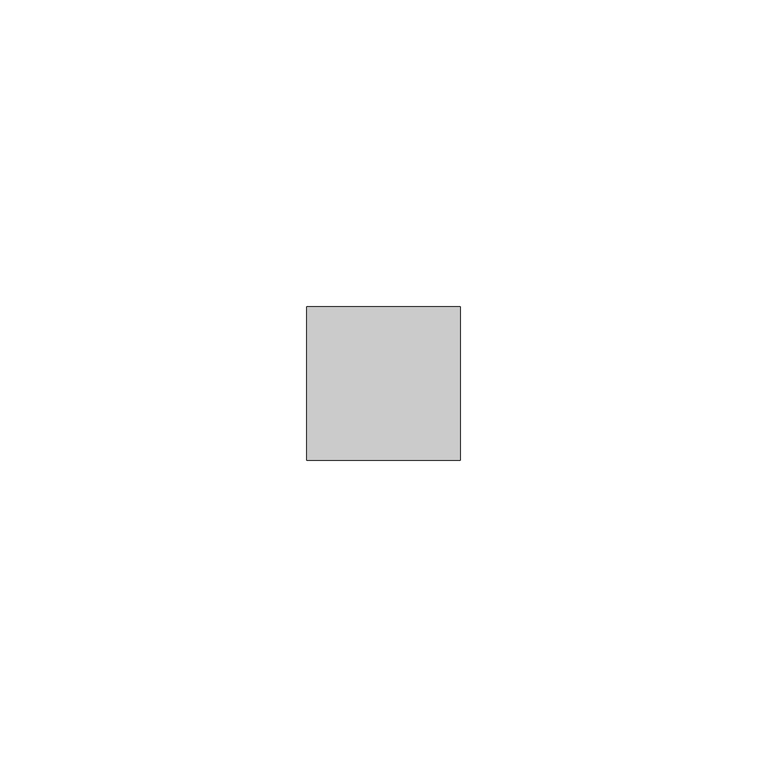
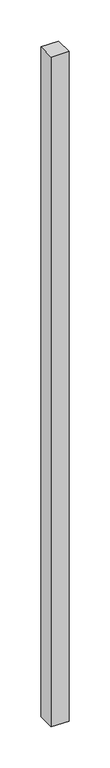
"""IFC4 building model written with IfcOpenShell, lengths in millimetres: member geometry, Obdélníková příčel : VERTI AERO."""

from ifc_helpers import new_model, si_unit, frame, origin, place, context, project, spatial, polyline, outline, extrude, source, transform, mapped, element, save


def member_f3a24926(model_context):
    return source(origin(), model_context, "Body", "SweptSolid", [
        extrude(outline(polyline([(0.0, 12.5), (0.0, -12.5), (-25.0, -12.5), (-25.0, 12.5), (0.0, 12.5)])), frame((0.0, 0.0, -995.0), z_axis=(0.0, 0.0, 1.0), x_axis=(1.0, 0.0, 0.0)), (0.0, 0.0, 1.0), 995.0),
    ])


if __name__ == "__main__":
    model = new_model("IFC4")
    model_context = context("Model", 3, world=origin())
    ifc_project = project(units=[si_unit("LENGTHUNIT", "METRE", prefix="MILLI")], contexts=[model_context])
    site = spatial("IfcSite", under=ifc_project)
    building = spatial("IfcBuilding", under=site)
    placement = place(None, origin())
    member_shape = member_f3a24926(model_context)
    element("IfcMember", 1, ObjectType="Obdélníková příčel : VERTI AERO", at=placement, inside=building, context=model_context, shape_type="MappedRepresentation", body=[
        mapped(member_shape, transform((0.0, 0.0, 0.0), x_axis=(1.0, 0.0, 0.0), y_axis=(0.0, 1.0, 0.0), z_axis=(0.0, 0.0, 1.0))),
    ])
    save(model, "model.ifc")
